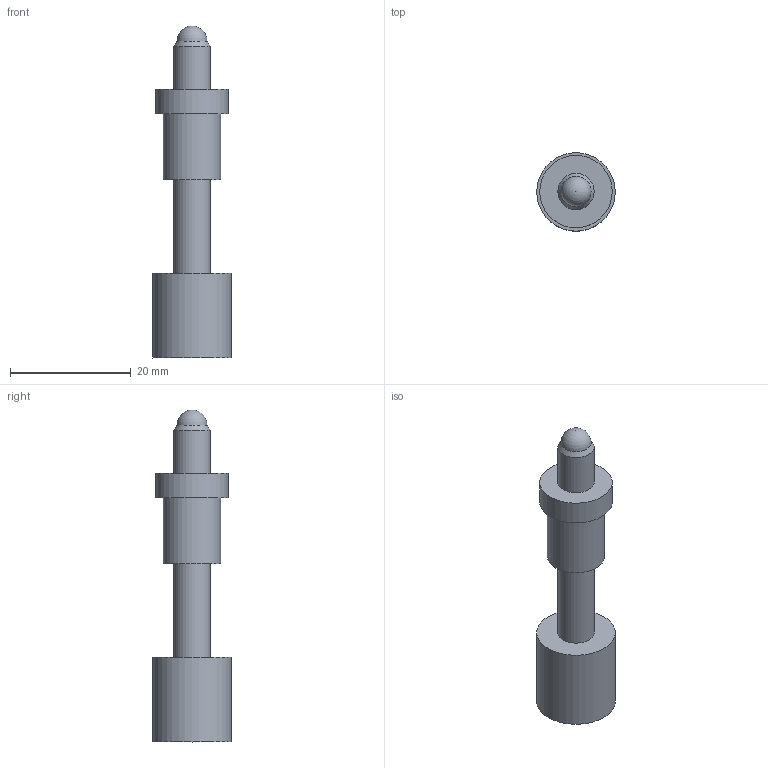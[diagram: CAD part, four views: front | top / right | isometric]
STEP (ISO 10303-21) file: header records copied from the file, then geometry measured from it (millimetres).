
FILE_DESCRIPTION( ( 'STEP AP203' ), '1' );
FILE_NAME( '//Srg14/OST事業部/370 手動ステージBU/307　開発G/090212/B87-1/3D_B87-1(SC-6-10-55)+090212.step', '2009-02-27T02:38:02', ( ' ' ), ( ' ' ), 'XStep 1.0', ' ', ' ' );
FILE_SCHEMA( ( 'CONFIG_CONTROL_DESIGN' ) );
Length unit declared in the file: millimetre
Products named in the file (2): 1; 2
Bounding box: 13 x 13 x 55 mm (x, y, z)
Volume: 3783.7 mm3; surface area: 2506.4 mm2
Topology: 2 solids, 2 shells, 12 faces, 23 edges, 16 vertices
Faces by surface type: cylinder 5, plane 5, cone 1, sphere 1
Full cylindrical faces by diameter (mm): 6 x2, 9.5 x1, 12 x1, 13 x1
Entity records: 326 total; most frequent: DIRECTION 50, CARTESIAN_POINT 36, AXIS2_PLACEMENT_3D 25, EDGE_LOOP 22, ORIENTED_EDGE 22, FACE_OUTER_BOUND 17, ADVANCED_FACE 12, EDGE_CURVE 11
